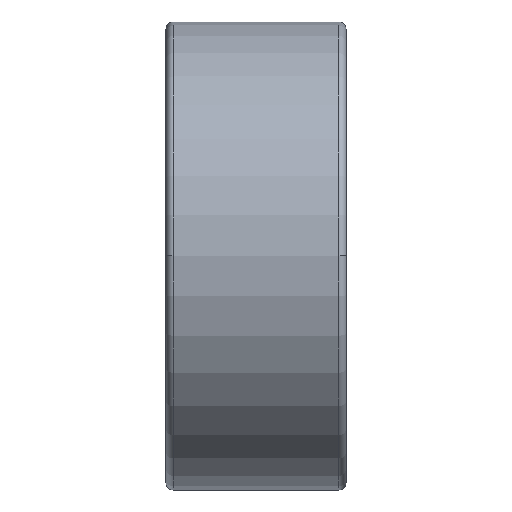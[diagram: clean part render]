
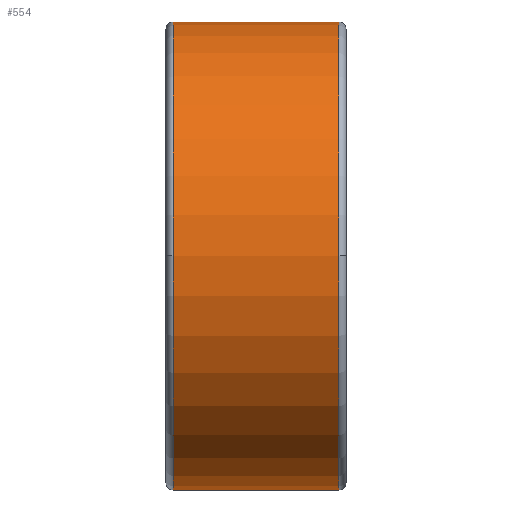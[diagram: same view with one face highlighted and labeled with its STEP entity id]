
A CAD part, top view. The second image highlights one B-rep face of the part: STEP entity #554.
In plain terms, the highlighted cylindrical face has radius 6.5 mm (diameter 13 mm), a partial arc.
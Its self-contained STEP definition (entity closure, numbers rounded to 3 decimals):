
#403 = TOROIDAL_SURFACE('',#404,6.3,0.2);
#404 = AXIS2_PLACEMENT_3D('',#405,#406,#407);
#405 = CARTESIAN_POINT('',(4.8,0.,0.));
#406 = DIRECTION('',(1.,0.,0.));
#407 = DIRECTION('',(0.,0.,-1.));
#415 = TOROIDAL_SURFACE('',#416,6.3,0.2);
#416 = AXIS2_PLACEMENT_3D('',#417,#418,#419);
#417 = CARTESIAN_POINT('',(4.8,0.,0.));
#418 = DIRECTION('',(1.,0.,0.));
#419 = DIRECTION('',(0.,0.,-1.));
#428 = VERTEX_POINT('',#429);
#429 = CARTESIAN_POINT('',(4.8,6.5,0.));
#444 = CYLINDRICAL_SURFACE('',#445,6.5);
#445 = AXIS2_PLACEMENT_3D('',#446,#447,#448);
#446 = CARTESIAN_POINT('',(2.5,0.,0.));
#447 = DIRECTION('',(1.,0.,0.));
#448 = DIRECTION('',(-0.,1.,0.));
#456 = EDGE_CURVE('',#428,#457,#459,.T.);
#457 = VERTEX_POINT('',#458);
#458 = CARTESIAN_POINT('',(4.8,0.,6.5));
#459 = SURFACE_CURVE('',#460,(#465,#472),.PCURVE_S1.);
#460 = CIRCLE('',#461,6.5);
#461 = AXIS2_PLACEMENT_3D('',#462,#463,#464);
#462 = CARTESIAN_POINT('',(4.8,0.,0.));
#463 = DIRECTION('',(1.,0.,0.));
#464 = DIRECTION('',(-0.,1.,0.));
#465 = PCURVE('',#403,#466);
#466 = DEFINITIONAL_REPRESENTATION('',(#467),#471);
#467 = LINE('',#468,#469);
#468 = CARTESIAN_POINT('',(1.571,0.));
#469 = VECTOR('',#470,1.);
#470 = DIRECTION('',(1.,0.));
#471 = ( GEOMETRIC_REPRESENTATION_CONTEXT(2) 
PARAMETRIC_REPRESENTATION_CONTEXT() REPRESENTATION_CONTEXT('2D SPACE',''
  ) );
#472 = PCURVE('',#473,#478);
#473 = CYLINDRICAL_SURFACE('',#474,6.5);
#474 = AXIS2_PLACEMENT_3D('',#475,#476,#477);
#475 = CARTESIAN_POINT('',(2.5,0.,0.));
#476 = DIRECTION('',(1.,0.,0.));
#477 = DIRECTION('',(-0.,1.,0.));
#478 = DEFINITIONAL_REPRESENTATION('',(#479),#483);
#479 = LINE('',#480,#481);
#480 = CARTESIAN_POINT('',(0.,2.3));
#481 = VECTOR('',#482,1.);
#482 = DIRECTION('',(1.,0.));
#483 = ( GEOMETRIC_REPRESENTATION_CONTEXT(2) 
PARAMETRIC_REPRESENTATION_CONTEXT() REPRESENTATION_CONTEXT('2D SPACE',''
  ) );
#554 = ADVANCED_FACE('',(#555),#473,.T.);
#555 = FACE_BOUND('',#556,.T.);
#556 = EDGE_LOOP('',(#557,#580,#609,#638,#661,#683));
#557 = ORIENTED_EDGE('',*,*,#558,.F.);
#558 = EDGE_CURVE('',#559,#428,#561,.T.);
#559 = VERTEX_POINT('',#560);
#560 = CARTESIAN_POINT('',(0.2,6.5,0.));
#561 = SURFACE_CURVE('',#562,(#566,#573),.PCURVE_S1.);
#562 = LINE('',#563,#564);
#563 = CARTESIAN_POINT('',(2.5,6.5,0.));
#564 = VECTOR('',#565,1.);
#565 = DIRECTION('',(1.,0.,0.));
#566 = PCURVE('',#473,#567);
#567 = DEFINITIONAL_REPRESENTATION('',(#568),#572);
#568 = LINE('',#569,#570);
#569 = CARTESIAN_POINT('',(0.,0.));
#570 = VECTOR('',#571,1.);
#571 = DIRECTION('',(0.,1.));
#572 = ( GEOMETRIC_REPRESENTATION_CONTEXT(2) 
PARAMETRIC_REPRESENTATION_CONTEXT() REPRESENTATION_CONTEXT('2D SPACE',''
  ) );
#573 = PCURVE('',#444,#574);
#574 = DEFINITIONAL_REPRESENTATION('',(#575),#579);
#575 = LINE('',#576,#577);
#576 = CARTESIAN_POINT('',(6.283,0.));
#577 = VECTOR('',#578,1.);
#578 = DIRECTION('',(0.,1.));
#579 = ( GEOMETRIC_REPRESENTATION_CONTEXT(2) 
PARAMETRIC_REPRESENTATION_CONTEXT() REPRESENTATION_CONTEXT('2D SPACE',''
  ) );
#580 = ORIENTED_EDGE('',*,*,#581,.T.);
#581 = EDGE_CURVE('',#559,#582,#584,.T.);
#582 = VERTEX_POINT('',#583);
#583 = CARTESIAN_POINT('',(0.2,0.,6.5));
#584 = SURFACE_CURVE('',#585,(#590,#597),.PCURVE_S1.);
#585 = CIRCLE('',#586,6.5);
#586 = AXIS2_PLACEMENT_3D('',#587,#588,#589);
#587 = CARTESIAN_POINT('',(0.2,0.,0.));
#588 = DIRECTION('',(1.,0.,0.));
#589 = DIRECTION('',(-0.,1.,0.));
#590 = PCURVE('',#473,#591);
#591 = DEFINITIONAL_REPRESENTATION('',(#592),#596);
#592 = LINE('',#593,#594);
#593 = CARTESIAN_POINT('',(0.,-2.3));
#594 = VECTOR('',#595,1.);
#595 = DIRECTION('',(1.,0.));
#596 = ( GEOMETRIC_REPRESENTATION_CONTEXT(2) 
PARAMETRIC_REPRESENTATION_CONTEXT() REPRESENTATION_CONTEXT('2D SPACE',''
  ) );
#597 = PCURVE('',#598,#603);
#598 = TOROIDAL_SURFACE('',#599,6.3,0.2);
#599 = AXIS2_PLACEMENT_3D('',#600,#601,#602);
#600 = CARTESIAN_POINT('',(0.2,0.,0.));
#601 = DIRECTION('',(1.,0.,0.));
#602 = DIRECTION('',(0.,0.,-1.));
#603 = DEFINITIONAL_REPRESENTATION('',(#604),#608);
#604 = LINE('',#605,#606);
#605 = CARTESIAN_POINT('',(1.571,6.283));
#606 = VECTOR('',#607,1.);
#607 = DIRECTION('',(1.,0.));
#608 = ( GEOMETRIC_REPRESENTATION_CONTEXT(2) 
PARAMETRIC_REPRESENTATION_CONTEXT() REPRESENTATION_CONTEXT('2D SPACE',''
  ) );
#609 = ORIENTED_EDGE('',*,*,#610,.T.);
#610 = EDGE_CURVE('',#582,#611,#613,.T.);
#611 = VERTEX_POINT('',#612);
#612 = CARTESIAN_POINT('',(0.2,-6.5,0.));
#613 = SURFACE_CURVE('',#614,(#619,#626),.PCURVE_S1.);
#614 = CIRCLE('',#615,6.5);
#615 = AXIS2_PLACEMENT_3D('',#616,#617,#618);
#616 = CARTESIAN_POINT('',(0.2,0.,0.));
#617 = DIRECTION('',(1.,0.,0.));
#618 = DIRECTION('',(-0.,1.,0.));
#619 = PCURVE('',#473,#620);
#620 = DEFINITIONAL_REPRESENTATION('',(#621),#625);
#621 = LINE('',#622,#623);
#622 = CARTESIAN_POINT('',(0.,-2.3));
#623 = VECTOR('',#624,1.);
#624 = DIRECTION('',(1.,0.));
#625 = ( GEOMETRIC_REPRESENTATION_CONTEXT(2) 
PARAMETRIC_REPRESENTATION_CONTEXT() REPRESENTATION_CONTEXT('2D SPACE',''
  ) );
#626 = PCURVE('',#627,#632);
#627 = TOROIDAL_SURFACE('',#628,6.3,0.2);
#628 = AXIS2_PLACEMENT_3D('',#629,#630,#631);
#629 = CARTESIAN_POINT('',(0.2,0.,0.));
#630 = DIRECTION('',(1.,0.,0.));
#631 = DIRECTION('',(0.,0.,-1.));
#632 = DEFINITIONAL_REPRESENTATION('',(#633),#637);
#633 = LINE('',#634,#635);
#634 = CARTESIAN_POINT('',(1.571,6.283));
#635 = VECTOR('',#636,1.);
#636 = DIRECTION('',(1.,0.));
#637 = ( GEOMETRIC_REPRESENTATION_CONTEXT(2) 
PARAMETRIC_REPRESENTATION_CONTEXT() REPRESENTATION_CONTEXT('2D SPACE',''
  ) );
#638 = ORIENTED_EDGE('',*,*,#639,.F.);
#639 = EDGE_CURVE('',#640,#611,#642,.T.);
#640 = VERTEX_POINT('',#641);
#641 = CARTESIAN_POINT('',(4.8,-6.5,0.));
#642 = SURFACE_CURVE('',#643,(#647,#654),.PCURVE_S1.);
#643 = LINE('',#644,#645);
#644 = CARTESIAN_POINT('',(2.5,-6.5,0.));
#645 = VECTOR('',#646,1.);
#646 = DIRECTION('',(-1.,-0.,-0.));
#647 = PCURVE('',#473,#648);
#648 = DEFINITIONAL_REPRESENTATION('',(#649),#653);
#649 = LINE('',#650,#651);
#650 = CARTESIAN_POINT('',(3.142,0.));
#651 = VECTOR('',#652,1.);
#652 = DIRECTION('',(0.,-1.));
#653 = ( GEOMETRIC_REPRESENTATION_CONTEXT(2) 
PARAMETRIC_REPRESENTATION_CONTEXT() REPRESENTATION_CONTEXT('2D SPACE',''
  ) );
#654 = PCURVE('',#444,#655);
#655 = DEFINITIONAL_REPRESENTATION('',(#656),#660);
#656 = LINE('',#657,#658);
#657 = CARTESIAN_POINT('',(3.142,0.));
#658 = VECTOR('',#659,1.);
#659 = DIRECTION('',(0.,-1.));
#660 = ( GEOMETRIC_REPRESENTATION_CONTEXT(2) 
PARAMETRIC_REPRESENTATION_CONTEXT() REPRESENTATION_CONTEXT('2D SPACE',''
  ) );
#661 = ORIENTED_EDGE('',*,*,#662,.F.);
#662 = EDGE_CURVE('',#457,#640,#663,.T.);
#663 = SURFACE_CURVE('',#664,(#669,#676),.PCURVE_S1.);
#664 = CIRCLE('',#665,6.5);
#665 = AXIS2_PLACEMENT_3D('',#666,#667,#668);
#666 = CARTESIAN_POINT('',(4.8,0.,0.));
#667 = DIRECTION('',(1.,0.,0.));
#668 = DIRECTION('',(-0.,1.,0.));
#669 = PCURVE('',#473,#670);
#670 = DEFINITIONAL_REPRESENTATION('',(#671),#675);
#671 = LINE('',#672,#673);
#672 = CARTESIAN_POINT('',(0.,2.3));
#673 = VECTOR('',#674,1.);
#674 = DIRECTION('',(1.,0.));
#675 = ( GEOMETRIC_REPRESENTATION_CONTEXT(2) 
PARAMETRIC_REPRESENTATION_CONTEXT() REPRESENTATION_CONTEXT('2D SPACE',''
  ) );
#676 = PCURVE('',#415,#677);
#677 = DEFINITIONAL_REPRESENTATION('',(#678),#682);
#678 = LINE('',#679,#680);
#679 = CARTESIAN_POINT('',(1.571,0.));
#680 = VECTOR('',#681,1.);
#681 = DIRECTION('',(1.,0.));
#682 = ( GEOMETRIC_REPRESENTATION_CONTEXT(2) 
PARAMETRIC_REPRESENTATION_CONTEXT() REPRESENTATION_CONTEXT('2D SPACE',''
  ) );
#683 = ORIENTED_EDGE('',*,*,#456,.F.);
